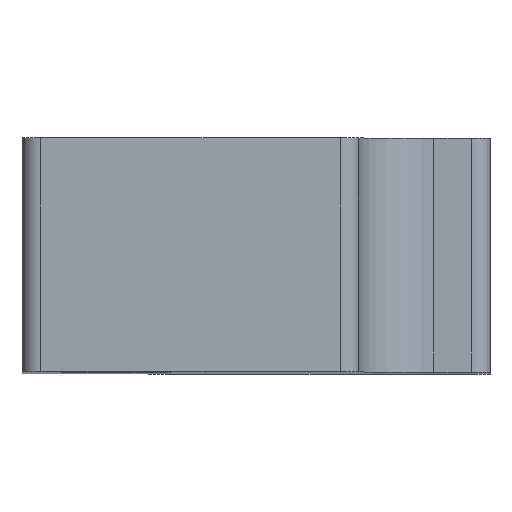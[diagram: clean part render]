
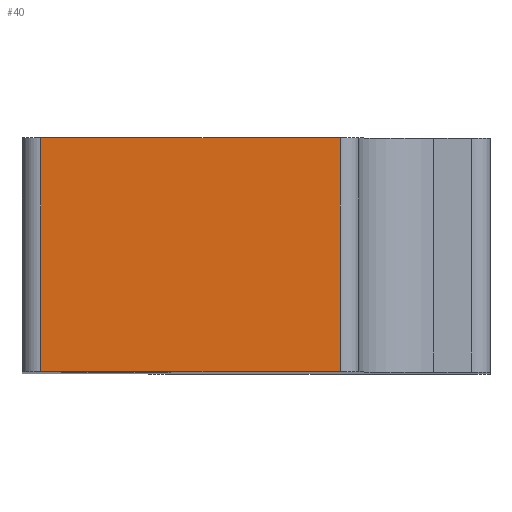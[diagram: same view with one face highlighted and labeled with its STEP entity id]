
A CAD part, top view. The second image highlights one B-rep face of the part: STEP entity #40.
In plain terms, the highlighted planar face has unit normal (0, 0, 1).
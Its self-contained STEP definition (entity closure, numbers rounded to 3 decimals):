
#40=ADVANCED_FACE('',(#71),#70,.F.);
#70=PLANE('',#377);
#71=FACE_OUTER_BOUND('',#378,.T.);
#374=CARTESIAN_POINT('',(-1.36,-25.,3.));
#375=DIRECTION('',(0.,0.,-1.));
#376=DIRECTION('',(-1.,0.,0.));
#377=AXIS2_PLACEMENT_3D('',#374,#375,#376);
#378=EDGE_LOOP('',(#612,#613,#614,#615));
#612=ORIENTED_EDGE('',*,*,#756,.T.);
#613=ORIENTED_EDGE('',*,*,#757,.F.);
#614=ORIENTED_EDGE('',*,*,#758,.F.);
#615=ORIENTED_EDGE('',*,*,#759,.T.);
#756=EDGE_CURVE('',#828,#829,#830,.T.);
#757=EDGE_CURVE('',#836,#829,#837,.T.);
#758=EDGE_CURVE('',#843,#836,#844,.T.);
#759=EDGE_CURVE('',#843,#828,#850,.T.);
#828=VERTEX_POINT('',#1308);
#829=VERTEX_POINT('',#1309);
#830=LINE('',#1310,#1311);
#836=VERTEX_POINT('',#1313);
#837=(BOUNDED_CURVE() B_SPLINE_CURVE(3,(#1314,#1315,#1316,#1317),.UNSPECIFIED.,.F.,.F.) B_SPLINE_CURVE_WITH_KNOTS((4,4),(0.995,1.),.UNSPECIFIED.) CURVE() GEOMETRIC_REPRESENTATION_ITEM() RATIONAL_B_SPLINE_CURVE((1.,1.,1.,1.)) REPRESENTATION_ITEM('') );
#843=VERTEX_POINT('',#1318);
#844=LINE('',#1319,#1320);
#850=(BOUNDED_CURVE() B_SPLINE_CURVE(1,(#1322,#1323),.UNSPECIFIED.,.F.,.F.) B_SPLINE_CURVE_WITH_KNOTS((2,2),(0.995,1.),.UNSPECIFIED.) CURVE() GEOMETRIC_REPRESENTATION_ITEM() RATIONAL_B_SPLINE_CURVE((1.,1.)) REPRESENTATION_ITEM('') );
#1308=CARTESIAN_POINT('',(-8.4,-24.5,3.));
#1309=CARTESIAN_POINT('',(-2.,-24.5,3.));
#1310=CARTESIAN_POINT('',(-8.4,-24.5,3.));
#1311=VECTOR('',#1312,6.4);
#1312=DIRECTION('',(1.,0.,0.));
#1313=CARTESIAN_POINT('',(-2.,-19.5,3.));
#1314=CARTESIAN_POINT('',(-2.,-19.5,3.));
#1315=CARTESIAN_POINT('',(-2.,-21.167,3.));
#1316=CARTESIAN_POINT('',(-2.,-22.833,3.));
#1317=CARTESIAN_POINT('',(-2.,-24.5,3.));
#1318=CARTESIAN_POINT('',(-8.4,-19.5,3.));
#1319=CARTESIAN_POINT('',(-8.4,-19.5,3.));
#1320=VECTOR('',#1321,6.4);
#1321=DIRECTION('',(1.,0.,0.));
#1322=CARTESIAN_POINT('',(-8.4,-19.5,3.));
#1323=CARTESIAN_POINT('',(-8.4,-24.5,3.));
